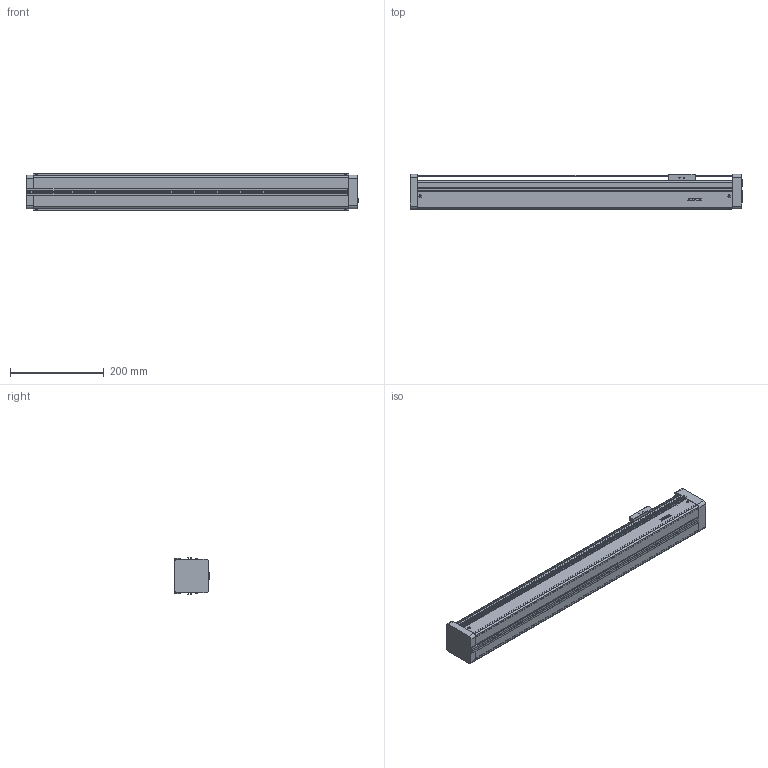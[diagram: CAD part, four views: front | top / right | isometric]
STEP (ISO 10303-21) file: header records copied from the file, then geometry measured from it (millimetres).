
FILE_DESCRIPTION(/* description */ (''),/* implementation_level */ '2;1');
FILE_NAME(/* name */ 'D:\混合母檔20191031\混和母檔\混和母檔\bin\Debug\Download\3D\KE705C-500AF0\KE705C-500AF0.stp',/* time_stamp */ '2019-11-04T14:04:38+08:00',/* author */ ('user'),/* organization */ (''),/* preprocessor_version */ 'ST-DEVELOPER v16.13',/* originating_system */ 'Autodesk Inventor 2018',/* authorisation */ '');
FILE_SCHEMA (('AUTOMOTIVE_DESIGN { 1 0 10303 214 3 1 1 }'));
Length unit declared in the file: millimetre
Products named in the file (3): KE705C-500AF0; KE70-F0-BP; KE70-SL
Assembly tree (2 placements, depth 2):
  KE705C-500AF0
    KE70-F0-BP
    KE70-SL
Bounding box: 707 x 75 x 79.4 mm (x, y, z)
Volume: 2910700.3 mm3; surface area: 426279.4 mm2
Topology: 2 solids, 29 shells, 837 faces, 2224 edges, 1453 vertices
Faces by surface type: plane 505, bspline 148, cylinder 108, cone 64, torus 12
Full cylindrical faces by diameter (mm): 2.459 x20, 3 x12, 3.242 x6, 3.5 x16, 4.134 x14, 5.7 x12, 6 x5, 30 x1
Entity records: 27816 total; most frequent: CARTESIAN_POINT 8785, ORIENTED_EDGE 3910, DIRECTION 3344, EDGE_CURVE 1955, VERTEX_POINT 1346, LINE 1276, VECTOR 1276, EDGE_LOOP 1047
